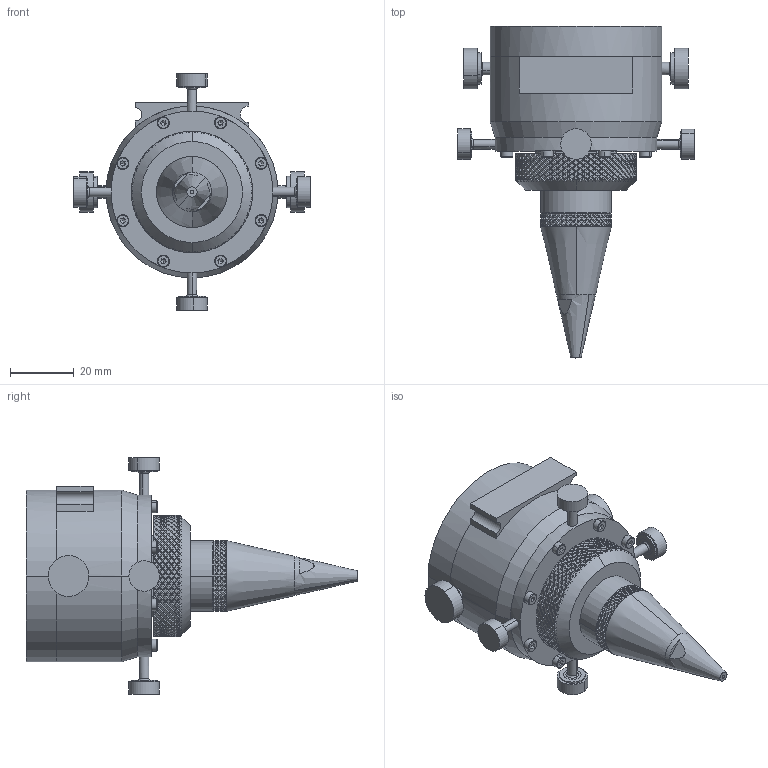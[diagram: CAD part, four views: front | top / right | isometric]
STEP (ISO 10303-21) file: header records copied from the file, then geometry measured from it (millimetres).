
FILE_DESCRIPTION (( 'STEP AP214' ), '1' );
FILE_NAME ('G1-25-25-089.STEP', '2016-10-28T12:18:18', ( '' ), ( '' ), 'SwSTEP 2.0', 'SolidWorks 2016', '' );
FILE_SCHEMA (( 'AUTOMOTIVE_DESIGN' ));
Length unit declared in the file: inch
Products named in the file (1): G1-25-25-089
Bounding box: 74.2 x 104.2 x 74.2 mm (x, y, z)
Volume: 109574.4 mm3; surface area: 24724.5 mm2
Topology: 1 solids, 1 shells, 3960 faces, 8281 edges, 4336 vertices
Faces by surface type: bspline 2800, cylinder 843, plane 254, cone 47, torus 12, sphere 4
Entity records: 119534 total; most frequent: CARTESIAN_POINT 67904, ORIENTED_EDGE 16530, EDGE_CURVE 8265, VERTEX_POINT 4336, DIRECTION 4160, EDGE_LOOP 4011, FACE_OUTER_BOUND 3960, ADVANCED_FACE 3960
